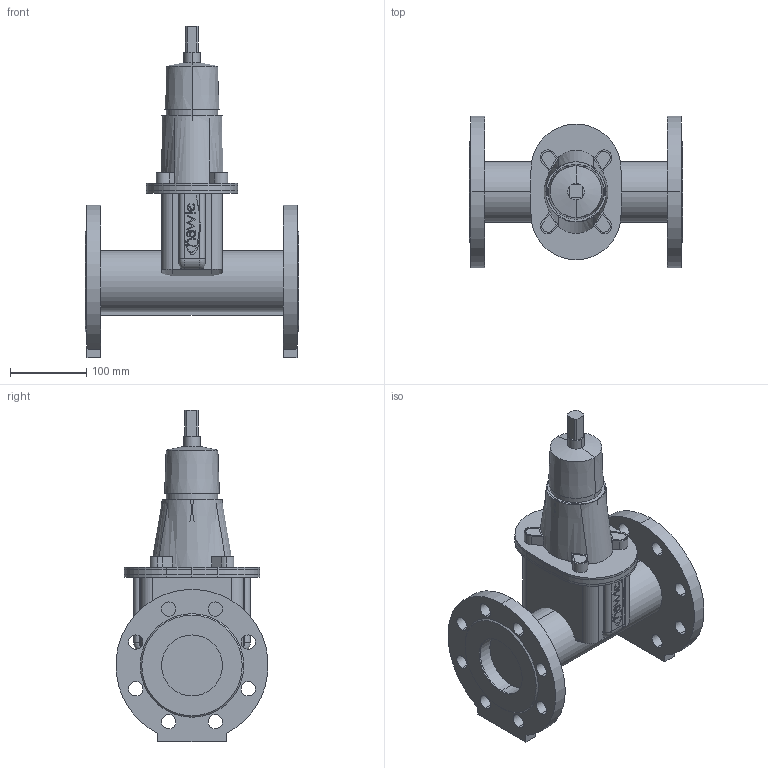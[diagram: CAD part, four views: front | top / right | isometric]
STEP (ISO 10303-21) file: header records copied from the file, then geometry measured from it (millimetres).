
FILE_DESCRIPTION(('STEP AP214'),'1');
FILE_NAME('S:/EK/USER/CAT6/3DHomepage/4700E2/4700E2-PN16-DN80.STP','2012-04-23T12:20:17',(' '),(' '),'Spatial InterOp 3D',' ',' ');
FILE_SCHEMA(('automotive_design'));
Length unit declared in the file: millimetre
Products named in the file (46): 3D-Objekt
Bounding box: 280 x 199.56 x 435 mm (x, y, z)
Volume: 4719300.6 mm3; surface area: 614244.7 mm2
Topology: 46 solids, 46 shells, 426 faces, 996 edges, 664 vertices
Faces by surface type: plane 228, cylinder 174, bspline 10, cone 10, torus 4
Entity records: 16986 total; most frequent: DIRECTION 2320, CARTESIAN_POINT 2302, ORIENTED_EDGE 1992, EDGE_CURVE 996, AXIS2_PLACEMENT_3D 862, VERTEX_POINT 664, LINE 596, VECTOR 596
